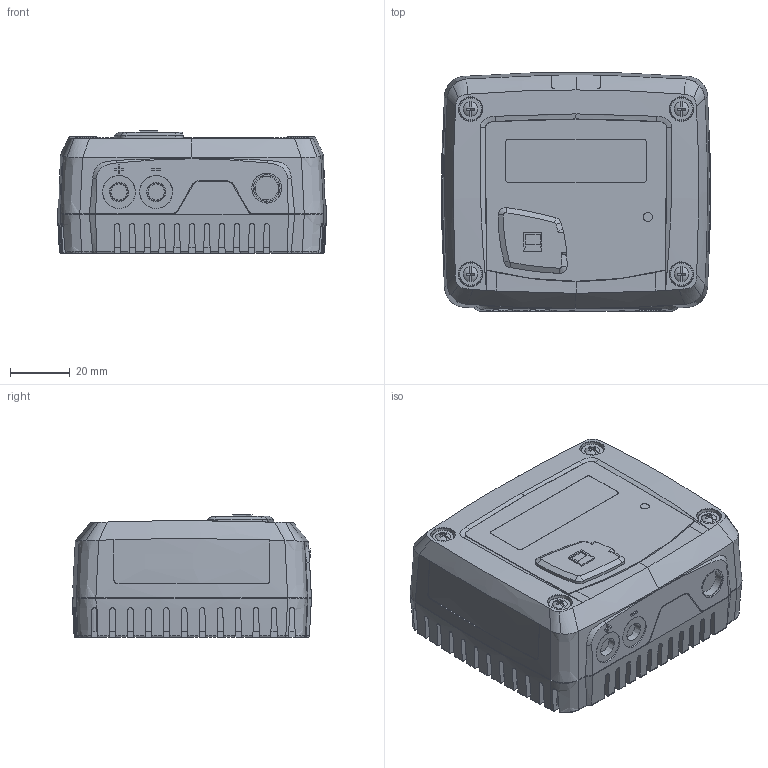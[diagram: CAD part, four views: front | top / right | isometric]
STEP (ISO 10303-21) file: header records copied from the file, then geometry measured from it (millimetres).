
FILE_DESCRIPTION((''),'2;1');
FILE_NAME('TM110_S_SW0001','2016-06-23T',('REFT'),(''),'PRO/ENGINEER BY PARAMETRIC TECHNOLOGY CORPORATION, 2012420','PRO/ENGINEER BY PARAMETRIC TECHNOLOGY CORPORATION, 2012420','');
FILE_SCHEMA(('CONFIG_CONTROL_DESIGN'));
Length unit declared in the file: millimetre
Products named in the file (1): TM110_S_SW0001
Bounding box: 89.77 x 79.84 x 41 mm (x, y, z)
Volume: 253429.4 mm3; surface area: 35582.2 mm2
Topology: 1 solids, 1 shells, 1081 faces, 2947 edges, 1936 vertices
Faces by surface type: plane 574, cylinder 254, cone 76, bspline 74, extrusion 47, torus 45, sphere 8, revolution 3
Entity records: 40083 total; most frequent: CARTESIAN_POINT 13975, ORIENTED_EDGE 5890, DIRECTION 4685, EDGE_CURVE 2945, VERTEX_POINT 1936, VECTOR 1642, LINE 1595, AXIS2_PLACEMENT_3D 1520
